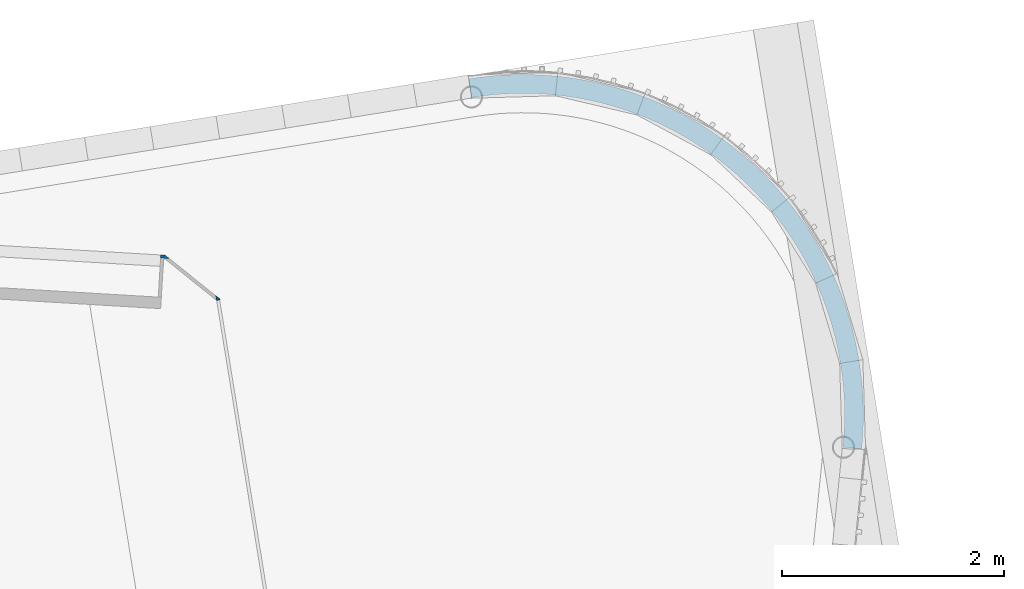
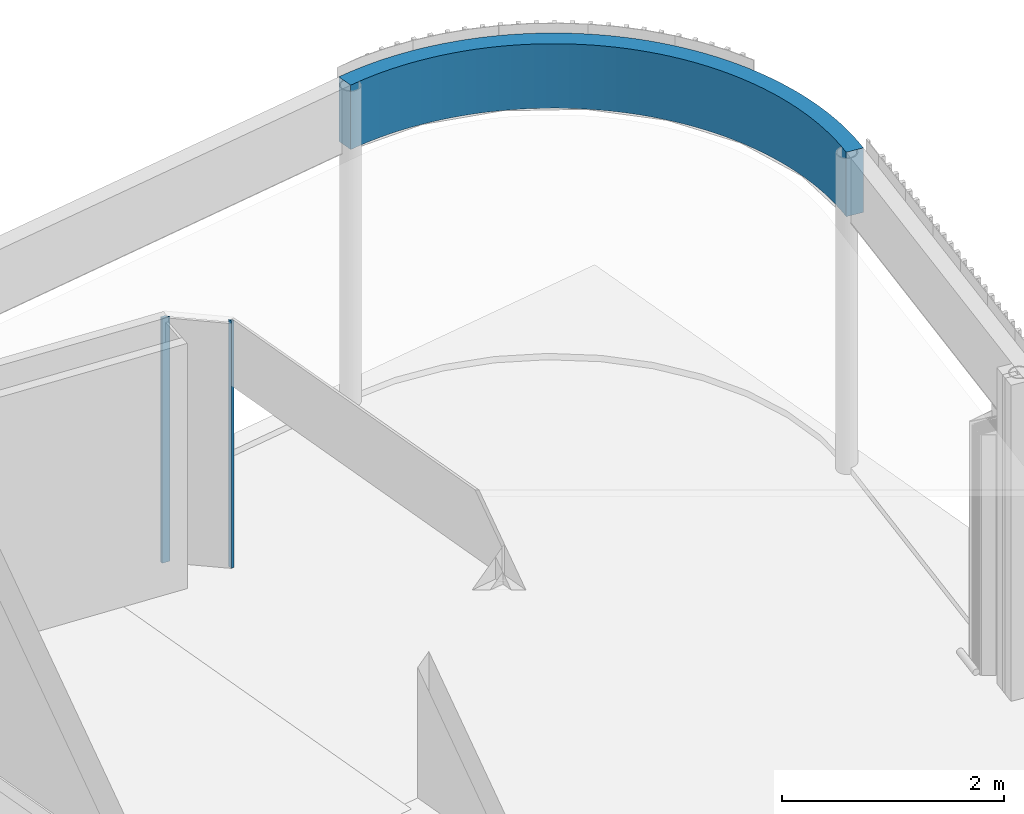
# One storey, part 11 of 23: 3 walls.
"""IFC2X3 building model written with IfcOpenShell, lengths in millimetres."""

from ifc_helpers import new_model, entity, si_unit, converted_unit, derived_unit, direction, frame, frame_2d, origin, origin_with_axes, place, context, subcontext, project, spatial, polyline, circle_curve, parameter, trimmed, segment, composite_curve, outline, extrude, material, layer, layer_set, layer_usage, type_object, element, save


model = new_model("IFC2X3")

# Units and contexts
plan_context = context("Plan", 3, precision=1e-05, world=origin_with_axes())
model_context = context("Model", 3, precision=0.01, world=origin(), true_north=direction((6.12323399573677e-17, 1.0)))
body_context = subcontext(model_context, "Body", "Model", "MODEL_VIEW")
ifc_project = project(units=[converted_unit("PLANEANGLEUNIT", "DEGREE", entity("IfcPositiveLengthMeasure", 0.0174532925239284), si_unit("PLANEANGLEUNIT", "RADIAN"), dimensions=[0, 0, 0, 0, 0, 0, 0]), si_unit("AREAUNIT", "SQUARE_METRE"), si_unit("LENGTHUNIT", "METRE", prefix="MILLI"), si_unit("MASSUNIT", "GRAM", prefix="KILO"), si_unit("POWERUNIT", "WATT"), si_unit("PRESSUREUNIT", "PASCAL", prefix="KILO"), si_unit("FORCEUNIT", "NEWTON", prefix="KILO"), si_unit("ELECTRICVOLTAGEUNIT", "VOLT"), si_unit("ELECTRICCURRENTUNIT", "AMPERE"), si_unit("THERMODYNAMICTEMPERATUREUNIT", "DEGREE_CELSIUS"), si_unit("TIMEUNIT", "SECOND"), si_unit("VOLUMEUNIT", "CUBIC_METRE"), derived_unit("LINEARVELOCITYUNIT", [(si_unit("LENGTHUNIT", "METRE"), 1), (si_unit("TIMEUNIT", "SECOND"), -1)]), derived_unit("VOLUMETRICFLOWRATEUNIT", [(si_unit("VOLUMEUNIT", "CUBIC_METRE"), 1), (si_unit("TIMEUNIT", "SECOND"), -1)]), derived_unit("THERMALTRANSMITTANCEUNIT", [(si_unit("POWERUNIT", "WATT"), 1), (si_unit("THERMODYNAMICTEMPERATUREUNIT", "KELVIN"), -1), (si_unit("AREAUNIT", "SQUARE_METRE"), -1)]), derived_unit("SOUNDPRESSUREUNIT", [(si_unit("PRESSUREUNIT", "PASCAL"), 1)])], contexts=[model_context, plan_context])

# Site, building, storey
site_placement = place(None, frame((-0.00071070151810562, 0.00438415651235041, 0.0), z_axis=(0.0, 0.0, 1.0), x_axis=(-0.160236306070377, 0.987078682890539, 0.0)))
site = spatial("IfcSite", under=ifc_project, at=site_placement, Name="Default", CompositionType="ELEMENT")
building_placement = place(site_placement, origin_with_axes())
building = spatial("IfcBuilding", under=site, at=building_placement, Name="TOO", CompositionType="ELEMENT")
storey_placement = place(building_placement, frame((0.0, 0.0, 58999.9999999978), z_axis=(0.0, 0.0, 1.0), x_axis=(1.0, 0.0, 0.0)))
storey = spatial("IfcBuildingStorey", under=building, at=storey_placement, Name="Nivå F", CompositionType="ELEMENT", Elevation=58999.9999999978)

# Walls
ifc_material_1 = material(Name="A240 - Gipsplate")
ifc_layer_1 = layer(ifc_material_1, 12.5)
ifc_layer_2 = layer(ifc_material_1, 12.5)
ifc_material_2 = material(Name="A200 - Isolasjon - Rock Wool")
ifc_layer_3 = layer(ifc_material_2, 120.0)
ifc_layer_4 = layer(ifc_material_1, 12.5)
ifc_layer_5 = layer(ifc_material_1, 12.5)
ifc_layer_set_1 = layer_set([ifc_layer_1, ifc_layer_2, ifc_layer_3, ifc_layer_4, ifc_layer_5], Name="Basic Wall:A242 - GG120/100GG")
ifc_layer_usage_1 = layer_usage(ifc_layer_set_1, "AXIS2", "POSITIVE", -85.0)
wall_type_1 = type_object("IfcWallType", Name="Basic Wall:A242 - GG120/100GG", PredefinedType="STANDARD", material=ifc_layer_set_1)
wall_1_placement = place(storey_placement, frame((787277.619644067, -507101.295602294, 2700.0), z_axis=(0.0, 0.0, 1.0), x_axis=(1.0, 0.0, 0.0)))
element("IfcWallStandardCase", 1, at=wall_1_placement, inside=storey, type_object=wall_type_1, material=ifc_layer_usage_1, Name="Basic Wall:A242 - GG120/100GG", ObjectType="Basic Wall:A242 - GG120/100GG", context=body_context, shape_type="SweptSolid", body=[
    extrude(outline(composite_curve([segment(trimmed(circle_curve(frame_2d((-2980.0, 0.0), x_axis=(1.0, 0.0)), 3065.0), [parameter(255.000000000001)], [parameter(360.0)], True, "PARAMETER"), True, "CONTINUOUS"), segment(polyline([(85.0, 0.0), (-85.0, 0.0)]), True, "CONTINUOUS"), segment(trimmed(circle_curve(frame_2d((-2980.0, 0.0), x_axis=(1.0, 0.0)), 2895.0), [parameter(255.000000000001)], [parameter(360.0)], True, "PARAMETER"), False, "CONTINUOUS"), segment(polyline([(-3729.28113557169, -2796.35526710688), (-3773.28037323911, -2960.56265757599)]), True, "CONTINUOUS")], self_intersect=False)), origin(), (0.0, 0.0, 1.0), 710.000000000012),
])
ifc_layer_6 = layer(ifc_material_1, 12.5)
ifc_material_3 = material(Name="A240 - X-finer")
ifc_layer_7 = layer(ifc_material_3, 15.0)
ifc_layer_set_2 = layer_set([ifc_layer_6, ifc_layer_7], Name="Basic Wall:A242 - GX (KA)")
ifc_layer_usage_2 = layer_usage(ifc_layer_set_2, "AXIS2", "NEGATIVE", 13.75)
wall_type_2 = type_object("IfcWallType", Name="Basic Wall:A242 - GX (KA)", PredefinedType="STANDARD", material=ifc_layer_set_2)
wall_2_placement = place(storey_placement, frame((786228.02199579, -504107.838344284, 0.0), z_axis=(0.0, 0.0, 1.0), x_axis=(-0.21814324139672, -0.975916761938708, 0.0)))
element("IfcWallStandardCase", 2, at=wall_2_placement, inside=storey, type_object=wall_type_2, material=ifc_layer_usage_2, Name="Basic Wall:A242 - GX (KA)", ObjectType="Basic Wall:A242 - GX (KA)", context=body_context, shape_type="SweptSolid", body=[
    extrude(outline(polyline([(79.1094599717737, -13.7499999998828), (40.4132007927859, 13.7500000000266), (0.0, 13.7499999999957), (0.0, -13.7499999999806), (31.6368312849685, -13.7500000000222), (79.1094599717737, -13.7499999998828)])), origin(), (0.0, 0.0, 1.0), 2700.00000000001),
])
ifc_layer_usage_3 = layer_usage(ifc_layer_set_2, "AXIS2", "NEGATIVE", 13.75)
wall_3_placement = place(storey_placement, frame((785797.594992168, -504555.730498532, 0.0), z_axis=(0.0, 0.0, 1.0), x_axis=(-1.0, 0.0, 0.0)))
element("IfcWallStandardCase", 3, at=wall_3_placement, inside=storey, type_object=wall_type_2, material=ifc_layer_usage_3, Name="Basic Wall:A242 - GX (KA)", ObjectType="Basic Wall:A242 - GX (KA)", context=body_context, shape_type="SweptSolid", body=[
    extrude(outline(polyline([(39.9753481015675, -13.7500000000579), (39.9753481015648, 13.7499999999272), (30.5418441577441, 13.7499999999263), (0.0, -13.7500000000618), (39.9753481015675, -13.7500000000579)])), origin(), (0.0, 0.0, 1.0), 2722.69102546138),
])

save(model, "model.ifc")
